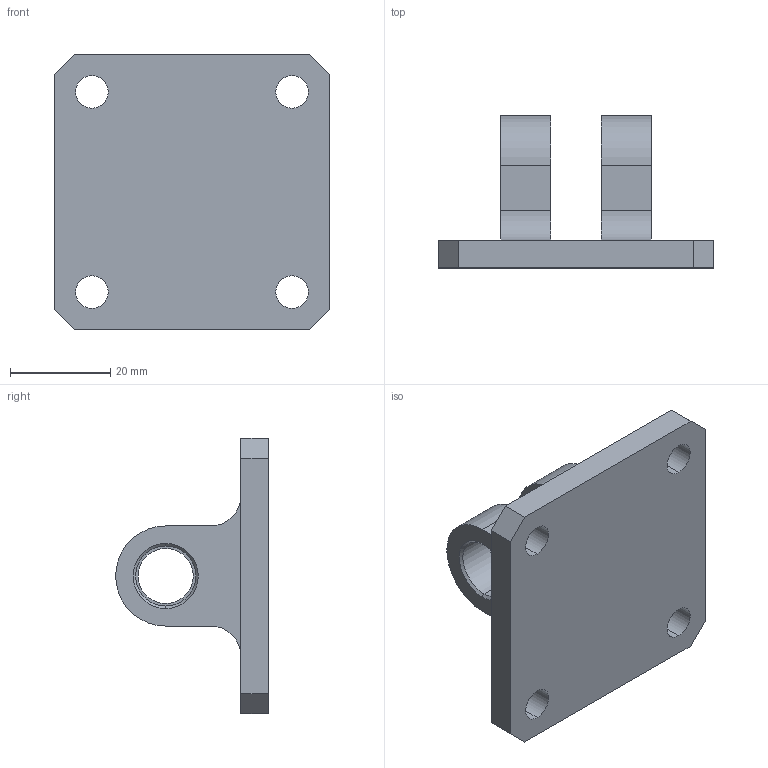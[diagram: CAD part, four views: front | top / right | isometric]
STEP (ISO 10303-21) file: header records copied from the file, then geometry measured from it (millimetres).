
FILE_DESCRIPTION (( 'STEP AP214' ), '1' );
FILE_NAME ('揺動金具.STEP', '2025-04-18T02:02:04', ( '' ), ( '' ), 'SwSTEP 2.0', 'SolidWorks 2023', '' );
FILE_SCHEMA (( 'AUTOMOTIVE_DESIGN' ));
Length unit declared in the file: millimetre
Products named in the file (1): 揺動金具
Bounding box: 55 x 30.5 x 55 mm (x, y, z)
Volume: 22982.7 mm3; surface area: 10283.5 mm2
Topology: 1 solids, 1 shells, 46 faces, 116 edges, 76 vertices
Faces by surface type: cylinder 22, plane 20, cone 4
Entity records: 1443 total; most frequent: DIRECTION 258, CARTESIAN_POINT 239, ORIENTED_EDGE 232, EDGE_CURVE 116, AXIS2_PLACEMENT_3D 95, VERTEX_POINT 76, LINE 68, VECTOR 68
